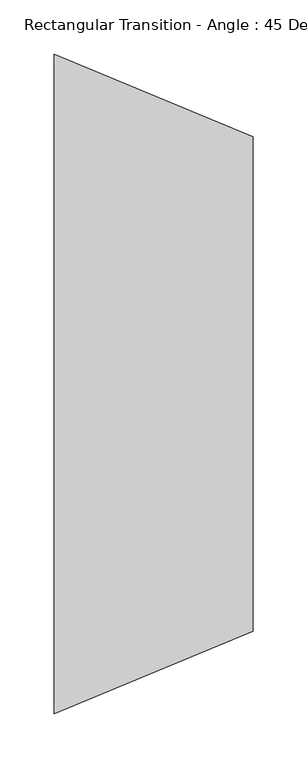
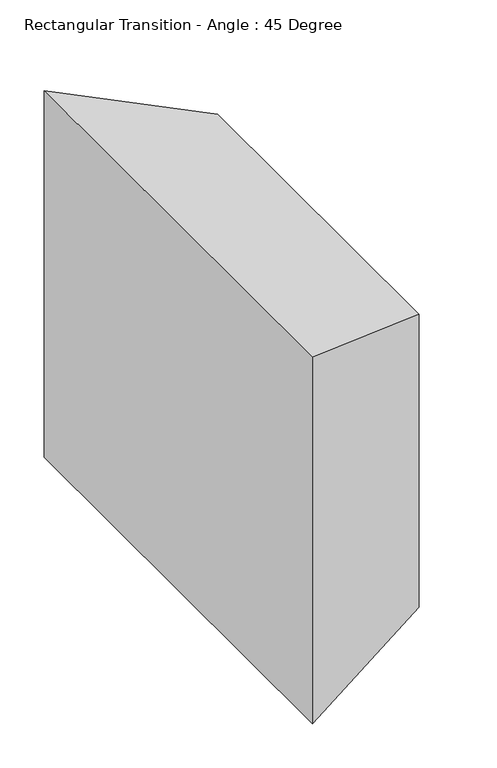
"""IFC4 building model written with IfcOpenShell, lengths in millimetres: duct fitting geometry, Rectangular Transition - Angle : 45 Degree."""

from ifc_helpers import new_model, si_unit, origin, place, context, project, spatial, faceted_brep, source, transform, mapped, element, save


def rectangular_transition_angle_45_degree_9b910bf7(model_context):
    return source(origin(), model_context, "Body", "Brep", [
        faceted_brep([(183.9630735, -228.6, 203.2), (183.9630735, -228.6, -203.2), (183.9630735, 228.6, -203.2), (183.9630735, 228.6, 203.2), (0.0, -304.8, 254.0), (0.0, 304.8, 254.0), (0.0, 304.8, -254.0), (0.0, -304.8, -254.0)], [[[0, 1, 2, 3]], [[4, 5, 6, 7]], [[4, 7, 1, 0]], [[7, 6, 2, 1]], [[6, 5, 3, 2]], [[5, 4, 0, 3]]]),
    ])


if __name__ == "__main__":
    model = new_model("IFC4")
    model_context = context("Model", 3, world=origin())
    ifc_project = project(units=[si_unit("LENGTHUNIT", "METRE", prefix="MILLI")], contexts=[model_context])
    site = spatial("IfcSite", under=ifc_project)
    building = spatial("IfcBuilding", under=site)
    placement = place(None, origin())
    rectangular_transition_angle_45_degree_shape = rectangular_transition_angle_45_degree_9b910bf7(model_context)
    element("IfcDuctFitting", 1, ObjectType="Rectangular Transition - Angle : 45 Degree", at=placement, inside=building, context=model_context, shape_type="MappedRepresentation", body=[
        mapped(rectangular_transition_angle_45_degree_shape, transform((0.0, 0.0, 0.0), x_axis=(1.0, 0.0, 0.0), y_axis=(0.0, 1.0, 0.0), z_axis=(0.0, 0.0, 1.0))),
    ])
    save(model, "model.ifc")
